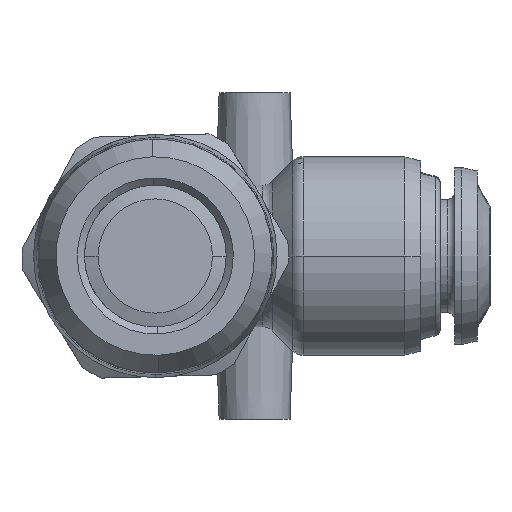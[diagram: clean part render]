
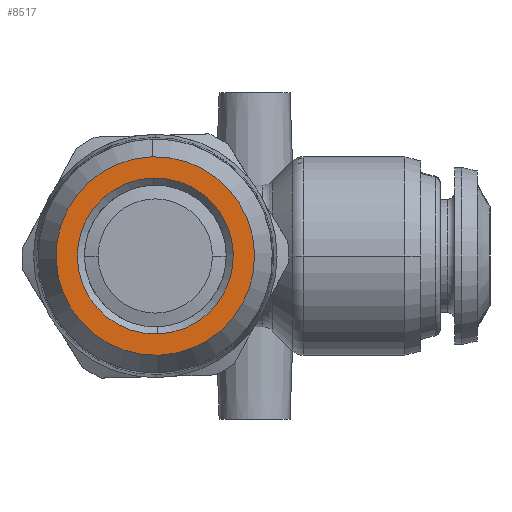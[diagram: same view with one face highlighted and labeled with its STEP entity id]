
A CAD part, left-side view. The second image highlights one B-rep face of the part: STEP entity #8517.
In plain terms, the highlighted planar face has unit normal (-1, 0, 0).
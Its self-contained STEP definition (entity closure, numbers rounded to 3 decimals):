
#6021 = FACE_BOUND ( 'NONE', #13174, .T. ) ;
#6022 = FACE_OUTER_BOUND ( 'NONE', #13175, .T. ) ;
#7167 = EDGE_CURVE ( 'NONE', #9720, #9722, #24556, .T. ) ;
#7168 = EDGE_CURVE ( 'NONE', #9664, #9728, #24555, .T. ) ;
#7325 = EDGE_CURVE ( 'NONE', #9728, #9664, #24667, .T. ) ;
#7326 = EDGE_CURVE ( 'NONE', #9722, #9720, #24669, .T. ) ;
#7403 = AXIS2_PLACEMENT_3D ( 'NONE', #20204, #20205, #20206 ) ;
#7404 = AXIS2_PLACEMENT_3D ( 'NONE', #20207, #20208, #20209 ) ;
#7458 = AXIS2_PLACEMENT_3D ( 'NONE', #7799, #7800, #7801 ) ;
#7459 = AXIS2_PLACEMENT_3D ( 'NONE', #7804, #7805, #7806 ) ;
#7799 = CARTESIAN_POINT ( 'NONE',  ( 19.99, 7.845, 0. ) ) ;
#7800 = DIRECTION ( 'NONE',  ( -1., 0., 0. ) ) ;
#7801 = DIRECTION ( 'NONE',  ( 0., -0.028, -1. ) ) ;
#7804 = CARTESIAN_POINT ( 'NONE',  ( 19.99, 7.845, 0. ) ) ;
#7805 = DIRECTION ( 'NONE',  ( 1., 0., 0. ) ) ;
#7806 = DIRECTION ( 'NONE',  ( 0., -0.028, -1. ) ) ;
#8517 = ADVANCED_FACE ( 'NONE', ( #6021, #6022 ), #18157, .T. ) ;
#9664 = VERTEX_POINT ( 'NONE', #15227 ) ;
#9720 = VERTEX_POINT ( 'NONE', #15283 ) ;
#9722 = VERTEX_POINT ( 'NONE', #15285 ) ;
#9728 = VERTEX_POINT ( 'NONE', #15291 ) ;
#10921 = AXIS2_PLACEMENT_3D ( 'NONE', #18164, #18165, #18166 ) ;
#13174 = EDGE_LOOP ( 'NONE', ( #26892, #26893 ) ) ;
#13175 = EDGE_LOOP ( 'NONE', ( #26894, #26895 ) ) ;
#15227 = CARTESIAN_POINT ( 'NONE',  ( 19.99, 8.04, 6.997 ) ) ;
#15283 = CARTESIAN_POINT ( 'NONE',  ( 19.99, 7.999, 5.498 ) ) ;
#15285 = CARTESIAN_POINT ( 'NONE',  ( 19.99, 7.692, -5.498 ) ) ;
#15291 = CARTESIAN_POINT ( 'NONE',  ( 19.99, 7.65, -6.997 ) ) ;
#18157 = PLANE ( 'NONE',  #10921 ) ;
#18164 = CARTESIAN_POINT ( 'NONE',  ( 19.99, 7.845, 0. ) ) ;
#18165 = DIRECTION ( 'NONE',  ( -1., 0., 0. ) ) ;
#18166 = DIRECTION ( 'NONE',  ( 0., -0.028, -1. ) ) ;
#20204 = CARTESIAN_POINT ( 'NONE',  ( 19.99, 7.845, 0. ) ) ;
#20205 = DIRECTION ( 'NONE',  ( 1., 0., 0. ) ) ;
#20206 = DIRECTION ( 'NONE',  ( 0., -0.028, -1. ) ) ;
#20207 = CARTESIAN_POINT ( 'NONE',  ( 19.99, 7.845, 0. ) ) ;
#20208 = DIRECTION ( 'NONE',  ( -1., 0., 0. ) ) ;
#20209 = DIRECTION ( 'NONE',  ( 0., -0.028, -1. ) ) ;
#24555 = CIRCLE ( 'NONE', #7404, 7. ) ;
#24556 = CIRCLE ( 'NONE', #7403, 5.5 ) ;
#24667 = CIRCLE ( 'NONE', #7458, 7. ) ;
#24669 = CIRCLE ( 'NONE', #7459, 5.5 ) ;
#26892 = ORIENTED_EDGE ( 'NONE', *, *, #7326, .T. ) ;
#26893 = ORIENTED_EDGE ( 'NONE', *, *, #7167, .T. ) ;
#26894 = ORIENTED_EDGE ( 'NONE', *, *, #7168, .T. ) ;
#26895 = ORIENTED_EDGE ( 'NONE', *, *, #7325, .T. ) ;
